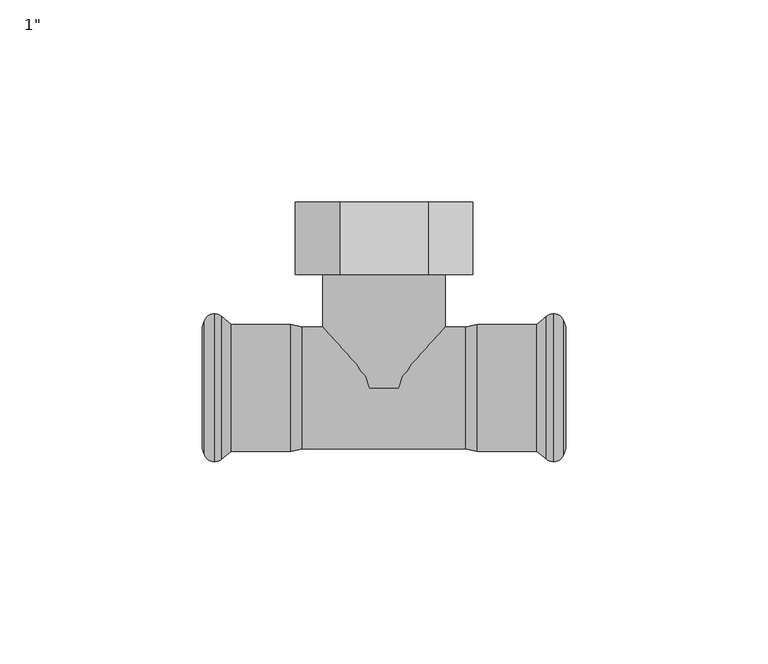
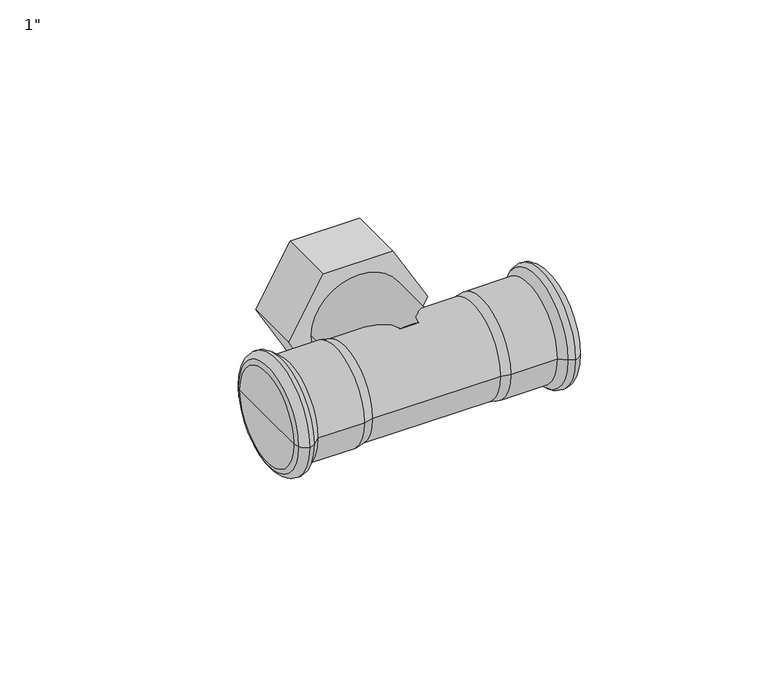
"""IFC4 building model written with IfcOpenShell, lengths in millimetres: pipe fitting geometry."""

from ifc_helpers import new_model, si_unit, point, frame, origin, origin_2d, place, context, project, spatial, polyline, circle_curve, ellipse_curve, trimmed, segment, composite_curve, outline, extrude, source, transform, mapped, element, save
from ifc_brep_helpers import plane_surface, cylinder_surface, revolved_surface, advanced_brep


def pipe_fitting_583e1adf(model_context):
    return source(origin(), model_context, "Body", "SolidModel", [
        extrude(outline(polyline([(0.0, 21.9393102), (19.0, 10.9696551), (19.0, -10.9696551), (0.0, -21.9393102), (-19.0, -10.9696551), (-19.0, 10.9696551), (0.0, 21.9393102)])), frame((0.0, 28.0, 0.0), z_axis=(0.0, 1.0, 0.0), x_axis=(0.0, 0.0, 1.0)), (0.0, 0.0, 1.0), 18.0),
        extrude(outline(composite_curve([segment(trimmed(circle_curve(origin_2d(), 15.1), [point((0.0, 15.1))], [point((0.0, -15.1))], False, "CARTESIAN"), True, "CONTINUOUS"), segment(trimmed(circle_curve(origin_2d(), 15.1), [point((0.0, -15.1))], [point((0.0, 15.1))], False, "CARTESIAN"), True, "CONTINUOUS")], self_intersect=False)), frame((0.0, 0.0, 0.0), z_axis=(0.0, 1.0, 0.0), x_axis=(0.0, 0.0, 1.0)), (0.0, 0.0, 1.0), 28.0),
        advanced_brep(
        [(40.0922627, -17.6370225, 0.0), (40.0922627, 17.6370225, 0.0), (41.8921278, 18.325, 0.0), (41.8921278, -18.325, 0.0), (37.7838092, -15.7, 0.0), (37.7838092, 15.7, 0.0), (23.1180407, -15.7, 0.0), (23.1180407, 15.7, 0.0), (20.2, -15.1, 0.0), (20.2, 15.1, 0.0), (-20.2, -15.1, 0.0), (-20.2, 15.1, 0.0), (-23.1180407, -15.7, 0.0), (-23.1180407, 15.7, 0.0), (-37.7838092, -15.7, 0.0), (-37.7838092, 15.7, 0.0), (-40.0922627, -17.6370225, 0.0), (-40.0922627, 17.6370225, 0.0), (-41.8921278, -18.325, 0.0), (-41.8921278, 18.325, 0.0), (-44.432052, -16.5484544, 0.0), (-44.432052, 16.5484544, 0.0), (-45.0, -14.9880302, 0.0), (-45.0, 14.9880302, 0.0), (-45.0, 0.0, 0.0), (45.0, -14.9880302, 0.0), (45.0, 14.9880302, 0.0), (45.0, 0.0, 0.0), (44.432052, -16.5484544, 0.0), (44.432052, 16.5484544, 0.0)],
        [
            (0, 1, circle_curve(frame((40.0922627, 0.0, 0.0), z_axis=(1.0, 0.0, 0.0), x_axis=(0.0, 1.0, 0.0)), 17.6370225)),
            (1, 2, circle_curve(frame((41.8935049, 15.6230333, 0.0), z_axis=(0.0, 0.0, -1.0), x_axis=(1.0, 0.0, 0.0)), 2.701967)),
            (2, 3, circle_curve(frame((41.8921278, 0.0, 0.0), z_axis=(-1.0, 0.0, 0.0), x_axis=(0.0, 1.0, 0.0)), 18.325)),
            (3, 0, circle_curve(frame((41.8935049, -15.6230333, 0.0), z_axis=(0.0, 0.0, -1.0), x_axis=(1.0, 0.0, 0.0)), 2.701967)),
            (1, 0, circle_curve(frame((40.0922627, 0.0, 0.0), z_axis=(1.0, 0.0, 0.0), x_axis=(0.0, 1.0, 0.0)), 17.6370225)),
            (3, 2, circle_curve(frame((41.8921278, 0.0, 0.0), z_axis=(-1.0, 0.0, 0.0), x_axis=(0.0, 1.0, 0.0)), 18.325)),
            (4, 5, circle_curve(frame((37.7838092, 0.0, 0.0), z_axis=(1.0, 0.0, 0.0), x_axis=(0.0, 1.0, 0.0)), 15.7)),
            (5, 1),
            (0, 4),
            (5, 4, circle_curve(frame((37.7838092, 0.0, 0.0), z_axis=(1.0, 0.0, 0.0), x_axis=(0.0, 1.0, 0.0)), 15.7)),
            (6, 7, circle_curve(frame((23.1180407, 0.0, 0.0), z_axis=(1.0, 0.0, 0.0), x_axis=(0.0, 1.0, 0.0)), 15.7)),
            (7, 5),
            (4, 6),
            (7, 6, circle_curve(frame((23.1180407, 0.0, 0.0), z_axis=(1.0, 0.0, 0.0), x_axis=(0.0, 1.0, 0.0)), 15.7)),
            (8, 9, circle_curve(frame((20.2, 0.0, 0.0), z_axis=(1.0, 0.0, 0.0), x_axis=(0.0, 1.0, 0.0)), 15.1)),
            (9, 7),
            (6, 8),
            (9, 8, circle_curve(frame((20.2, 0.0, 0.0), z_axis=(1.0, 0.0, 0.0), x_axis=(0.0, 1.0, 0.0)), 15.1)),
            (10, 11, circle_curve(frame((-20.2, 0.0, 0.0), z_axis=(1.0, 0.0, 0.0), x_axis=(0.0, 1.0, 0.0)), 15.1)),
            (11, 9),
            (8, 10),
            (11, 10, circle_curve(frame((-20.2, 0.0, 0.0), z_axis=(1.0, 0.0, 0.0), x_axis=(0.0, 1.0, 0.0)), 15.1)),
            (12, 13, circle_curve(frame((-23.1180407, 0.0, 0.0), z_axis=(1.0, 0.0, 0.0), x_axis=(0.0, 1.0, 0.0)), 15.7)),
            (13, 11),
            (10, 12),
            (13, 12, circle_curve(frame((-23.1180407, 0.0, 0.0), z_axis=(1.0, 0.0, 0.0), x_axis=(0.0, 1.0, 0.0)), 15.7)),
            (14, 15, circle_curve(frame((-37.7838092, 0.0, 0.0), z_axis=(1.0, 0.0, 0.0), x_axis=(0.0, 1.0, 0.0)), 15.7)),
            (15, 13),
            (12, 14),
            (15, 14, circle_curve(frame((-37.7838092, 0.0, 0.0), z_axis=(1.0, 0.0, 0.0), x_axis=(0.0, 1.0, 0.0)), 15.7)),
            (16, 17, circle_curve(frame((-40.0922627, 0.0, 0.0), z_axis=(1.0, 0.0, 0.0), x_axis=(0.0, 1.0, 0.0)), 17.6370225)),
            (17, 15),
            (14, 16),
            (17, 16, circle_curve(frame((-40.0922627, 0.0, 0.0), z_axis=(1.0, 0.0, 0.0), x_axis=(0.0, 1.0, 0.0)), 17.6370225)),
            (18, 19, circle_curve(frame((-41.8921278, 0.0, 0.0), z_axis=(1.0, 0.0, 0.0), x_axis=(0.0, 1.0, 0.0)), 18.325)),
            (19, 17, circle_curve(frame((-41.8935049, 15.6230333, 0.0), z_axis=(0.0, 0.0, -1.0), x_axis=(1.0, 0.0, 0.0)), 2.701967)),
            (16, 18, circle_curve(frame((-41.8935049, -15.6230333, 0.0), z_axis=(0.0, 0.0, -1.0), x_axis=(1.0, 0.0, 0.0)), 2.701967)),
            (19, 18, circle_curve(frame((-41.8921278, 0.0, 0.0), z_axis=(1.0, 0.0, 0.0), x_axis=(0.0, 1.0, 0.0)), 18.325)),
            (20, 21, circle_curve(frame((-44.432052, 0.0, 0.0), z_axis=(1.0, 0.0, 0.0), x_axis=(0.0, 1.0, 0.0)), 16.5484544)),
            (21, 19, circle_curve(frame((-41.89488, 15.6249993, 0.0), z_axis=(0.0, 0.0, -1.0), x_axis=(1.0, 0.0, 0.0)), 2.7000021)),
            (18, 20, circle_curve(frame((-41.89488, -15.6249993, 0.0), z_axis=(0.0, 0.0, -1.0), x_axis=(1.0, 0.0, 0.0)), 2.7000021)),
            (21, 20, circle_curve(frame((-44.432052, 0.0, 0.0), z_axis=(1.0, 0.0, 0.0), x_axis=(0.0, 1.0, 0.0)), 16.5484544)),
            (22, 23, circle_curve(frame((-45.0, 0.0, 0.0), z_axis=(1.0, 0.0, 0.0), x_axis=(0.0, 1.0, 0.0)), 14.9880302)),
            (23, 21),
            (20, 22),
            (23, 22, circle_curve(frame((-45.0, 0.0, 0.0), z_axis=(1.0, 0.0, 0.0), x_axis=(0.0, 1.0, 0.0)), 14.9880302)),
            (24, 23),
            (22, 24),
            (25, 26, circle_curve(frame((45.0, 0.0, 0.0), z_axis=(1.0, 0.0, 0.0), x_axis=(0.0, 1.0, 0.0)), 14.9880302)),
            (26, 27),
            (27, 25),
            (26, 25, circle_curve(frame((45.0, 0.0, 0.0), z_axis=(1.0, 0.0, 0.0), x_axis=(0.0, 1.0, 0.0)), 14.9880302)),
            (28, 29, circle_curve(frame((44.432052, 0.0, 0.0), z_axis=(1.0, 0.0, 0.0), x_axis=(0.0, 1.0, 0.0)), 16.5484544)),
            (29, 26),
            (25, 28),
            (29, 28, circle_curve(frame((44.432052, 0.0, 0.0), z_axis=(1.0, 0.0, 0.0), x_axis=(0.0, 1.0, 0.0)), 16.5484544)),
            (2, 29, circle_curve(frame((41.89488, 15.6249993, 0.0), z_axis=(0.0, 0.0, -1.0), x_axis=(1.0, 0.0, 0.0)), 2.7000021)),
            (28, 3, circle_curve(frame((41.89488, -15.6249993, 0.0), z_axis=(0.0, 0.0, -1.0), x_axis=(1.0, 0.0, 0.0)), 2.7000021)),
        ],
        [
            revolved_surface(trimmed(ellipse_curve(frame((41.8935049, 15.6230333, 0.0), z_axis=(0.0, 0.0, 1.0), x_axis=(1.0, 0.0, 0.0)), 2.701967, 2.701967), [point((41.8921278, 18.325, 0.0))], [point((40.0922627, 17.6370225, 0.0))], True, "CARTESIAN"), (1358.742668, 0.0, 0.0), (-1.0, 0.0, 0.0)),
            revolved_surface(polyline([(40.0922627, 17.6370225, 0.0), (37.7838092, 15.7, 0.0)]), (1358.742668, 0.0, 0.0), (-1.0, 0.0, 0.0)),
            cylinder_surface(frame((1358.742668, 0.0, 0.0), z_axis=(-1.0, 0.0, 0.0), x_axis=(0.0, 1.0, 0.0)), 15.7),
            revolved_surface(polyline([(23.1180407, 15.7, 0.0), (20.2, 15.1, 0.0)]), (1358.742668, 0.0, 0.0), (-1.0, 0.0, 0.0)),
            cylinder_surface(frame((1358.742668, 0.0, 0.0), z_axis=(-1.0, 0.0, 0.0), x_axis=(0.0, 1.0, 0.0)), 15.1),
            revolved_surface(polyline([(-20.2, 15.1, 0.0), (-23.1180407, 15.7, 0.0)]), (1358.742668, 0.0, 0.0), (-1.0, 0.0, 0.0)),
            revolved_surface(polyline([(-37.7838092, 15.7, 0.0), (-40.0922627, 17.6370225, 0.0)]), (1358.742668, 0.0, 0.0), (-1.0, 0.0, 0.0)),
            revolved_surface(trimmed(ellipse_curve(frame((-41.8935049, 15.6230333, 0.0), z_axis=(0.0, 0.0, 1.0), x_axis=(1.0, 0.0, 0.0)), 2.701967, 2.701967), [point((-40.0922627, 17.6370225, 0.0))], [point((-41.8921278, 18.325, 0.0))], True, "CARTESIAN"), (1358.742668, 0.0, 0.0), (-1.0, 0.0, 0.0)),
            revolved_surface(trimmed(ellipse_curve(frame((-41.89488, 15.6249993, 0.0), z_axis=(0.0, 0.0, 1.0), x_axis=(1.0, 0.0, 0.0)), 2.7000021, 2.7000021), [point((-41.8921278, 18.325, 0.0))], [point((-44.432052, 16.5484544, 0.0))], True, "CARTESIAN"), (1358.742668, 0.0, 0.0), (-1.0, 0.0, 0.0)),
            revolved_surface(polyline([(-44.432052, 16.5484544, 0.0), (-45.0, 14.9880302, 0.0)]), (1358.742668, 0.0, 0.0), (-1.0, 0.0, 0.0)),
            plane_surface(frame((-45.0, 0.0, 0.0), z_axis=(-1.0, 0.0, 0.0), x_axis=(0.0, 1.0, 0.0))),
            plane_surface(frame((45.0, 0.0, 0.0), z_axis=(1.0, 0.0, 0.0), x_axis=(0.0, 1.0, 0.0))),
            revolved_surface(polyline([(45.0, 14.9880302, 0.0), (44.432052, 16.5484544, 0.0)]), (1358.742668, 0.0, 0.0), (-1.0, 0.0, 0.0)),
            revolved_surface(trimmed(ellipse_curve(frame((41.89488, 15.6249993, 0.0), z_axis=(0.0, 0.0, 1.0), x_axis=(1.0, 0.0, 0.0)), 2.7000021, 2.7000021), [point((44.432052, 16.5484544, 0.0))], [point((41.8921278, 18.325, 0.0))], True, "CARTESIAN"), (1358.742668, 0.0, 0.0), (-1.0, 0.0, 0.0)),
        ],
        [
            (0, [[1, 2, 3, 4]]),
            (0, [[5, -4, 6, -2]]),
            (1, [[7, 8, -1, 9]]),
            (1, [[10, -9, -5, -8]]),
            (2, [[11, 12, -7, 13]]),
            (2, [[14, -13, -10, -12]]),
            (3, [[15, 16, -11, 17]]),
            (3, [[18, -17, -14, -16]]),
            (4, [[19, 20, -15, 21]]),
            (4, [[22, -21, -18, -20]]),
            (5, [[23, 24, -19, 25]]),
            (5, [[26, -25, -22, -24]]),
            (2, [[27, 28, -23, 29]]),
            (2, [[30, -29, -26, -28]]),
            (6, [[31, 32, -27, 33]]),
            (6, [[34, -33, -30, -32]]),
            (7, [[35, 36, -31, 37]]),
            (7, [[38, -37, -34, -36]]),
            (8, [[39, 40, -35, 41]]),
            (8, [[42, -41, -38, -40]]),
            (9, [[43, 44, -39, 45]]),
            (9, [[46, -45, -42, -44]]),
            (10, [[47, -43, 48]]),
            (10, [[-48, -46, -47]]),
            (11, [[49, 50, 51]]),
            (11, [[52, -51, -50]]),
            (12, [[53, 54, -49, 55]]),
            (12, [[56, -55, -52, -54]]),
            (13, [[-3, 57, -53, 58]]),
            (13, [[-6, -58, -56, -57]]),
        ],
    ),
    ])


if __name__ == "__main__":
    model = new_model("IFC4")
    model_context = context("Model", 3, world=origin())
    ifc_project = project(units=[si_unit("LENGTHUNIT", "METRE", prefix="MILLI")], contexts=[model_context])
    site = spatial("IfcSite", under=ifc_project)
    building = spatial("IfcBuilding", under=site)
    placement = place(None, origin())
    pipe_fitting_shape = pipe_fitting_583e1adf(model_context)
    element("IfcPipeFitting", 1, ObjectType="KAN-therm Steel trójnik z GW : 1\"", at=placement, inside=building, context=model_context, shape_type="MappedRepresentation", body=[
        mapped(pipe_fitting_shape, transform((0.0, 0.0, 0.0), x_axis=(1.0, 0.0, 0.0), y_axis=(0.0, 1.0, 0.0), z_axis=(0.0, 0.0, 1.0))),
    ])
    save(model, "model.ifc")
